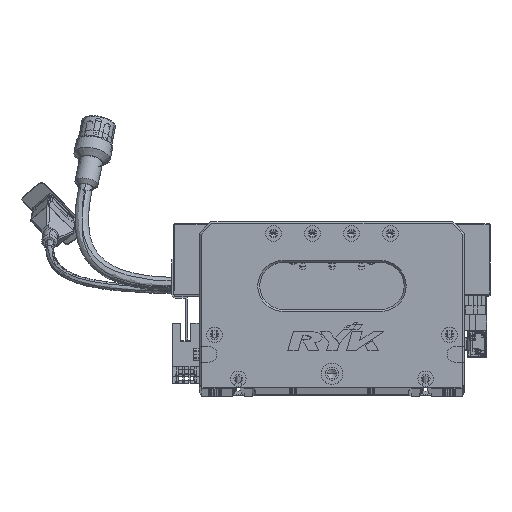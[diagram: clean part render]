
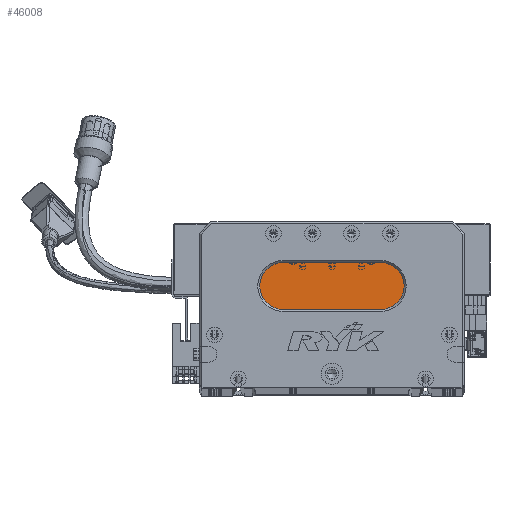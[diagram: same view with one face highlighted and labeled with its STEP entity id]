
A CAD part, top view. The second image highlights one B-rep face of the part: STEP entity #46008.
In plain terms, the highlighted planar face has unit normal (0, 0, 1) as drawn and (0, 0, -1) by its records, which use the part's own axes.
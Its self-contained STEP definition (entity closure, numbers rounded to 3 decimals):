
#1208 = AXIS2_PLACEMENT_3D ( 'NONE', #6775, #54432, #25016 ) ;
#3780 = DIRECTION ( 'NONE',  ( -1., 0., 0. ) ) ;
#5748 = VERTEX_POINT ( 'NONE', #26994 ) ;
#6775 = CARTESIAN_POINT ( 'NONE',  ( 93., 52., 13. ) ) ;
#10773 = CARTESIAN_POINT ( 'NONE',  ( 31., 52., 13. ) ) ;
#13572 = CIRCLE ( 'NONE', #1208, 12. ) ;
#13722 = DIRECTION ( 'NONE',  ( 0., 0., -1. ) ) ;
#15243 = ORIENTED_EDGE ( 'NONE', *, *, #48834, .T. ) ;
#16462 = CIRCLE ( 'NONE', #81866, 12. ) ;
#16710 = CARTESIAN_POINT ( 'NONE',  ( 93., 64., 13. ) ) ;
#17117 = LINE ( 'NONE', #16710, #85455 ) ;
#17126 = DIRECTION ( 'NONE',  ( 1., 0., 0. ) ) ;
#18047 = VERTEX_POINT ( 'NONE', #58648 ) ;
#20337 = CARTESIAN_POINT ( 'NONE',  ( 93., 40., 13. ) ) ;
#20668 = AXIS2_PLACEMENT_3D ( 'NONE', #107970, #41097, #107575 ) ;
#21616 = FACE_OUTER_BOUND ( 'NONE', #42140, .T. ) ;
#22748 = EDGE_CURVE ( 'NONE', #5748, #28399, #16462, .T. ) ;
#23156 = CARTESIAN_POINT ( 'NONE',  ( 93., 40., 13. ) ) ;
#25016 = DIRECTION ( 'NONE',  ( -1., 0., 0. ) ) ;
#26390 = CIRCLE ( 'NONE', #20668, 12. ) ;
#26994 = CARTESIAN_POINT ( 'NONE',  ( 43., 40., 13. ) ) ;
#27959 = EDGE_CURVE ( 'NONE', #28399, #18047, #26390, .T. ) ;
#28399 = VERTEX_POINT ( 'NONE', #10773 ) ;
#33489 = EDGE_CURVE ( 'NONE', #103569, #37295, #13572, .T. ) ;
#34212 = CARTESIAN_POINT ( 'NONE',  ( 93., 52., 13. ) ) ;
#37295 = VERTEX_POINT ( 'NONE', #20337 ) ;
#41097 = DIRECTION ( 'NONE',  ( 0., 0., -1. ) ) ;
#42140 = EDGE_LOOP ( 'NONE', ( #95901, #15243, #107935, #78328, #51361 ) ) ;
#42690 = CARTESIAN_POINT ( 'NONE',  ( 43., 52., 13. ) ) ;
#46008 = ADVANCED_FACE ( 'NONE', ( #21616 ), #52431, .T. ) ;
#48834 = EDGE_CURVE ( 'NONE', #37295, #5748, #67145, .T. ) ;
#51287 = DIRECTION ( 'NONE',  ( -1., 0., 0. ) ) ;
#51361 = ORIENTED_EDGE ( 'NONE', *, *, #79178, .T. ) ;
#52431 = PLANE ( 'NONE',  #64876 ) ;
#54432 = DIRECTION ( 'NONE',  ( 0., 0., -1. ) ) ;
#58648 = CARTESIAN_POINT ( 'NONE',  ( 43., 64., 13. ) ) ;
#64876 = AXIS2_PLACEMENT_3D ( 'NONE', #34212, #109386, #80326 ) ;
#67145 = LINE ( 'NONE', #23156, #87978 ) ;
#78328 = ORIENTED_EDGE ( 'NONE', *, *, #27959, .T. ) ;
#79178 = EDGE_CURVE ( 'NONE', #18047, #103569, #17117, .T. ) ;
#80326 = DIRECTION ( 'NONE',  ( -1., 0., 0. ) ) ;
#81866 = AXIS2_PLACEMENT_3D ( 'NONE', #42690, #13722, #3780 ) ;
#85455 = VECTOR ( 'NONE', #17126, 1000. ) ;
#87978 = VECTOR ( 'NONE', #51287, 1000. ) ;
#95901 = ORIENTED_EDGE ( 'NONE', *, *, #33489, .T. ) ;
#103569 = VERTEX_POINT ( 'NONE', #116305 ) ;
#107575 = DIRECTION ( 'NONE',  ( -1., 0., 0. ) ) ;
#107935 = ORIENTED_EDGE ( 'NONE', *, *, #22748, .T. ) ;
#107970 = CARTESIAN_POINT ( 'NONE',  ( 43., 52., 13. ) ) ;
#109386 = DIRECTION ( 'NONE',  ( 0., 0., -1. ) ) ;
#116305 = CARTESIAN_POINT ( 'NONE',  ( 93., 64., 13. ) ) ;
